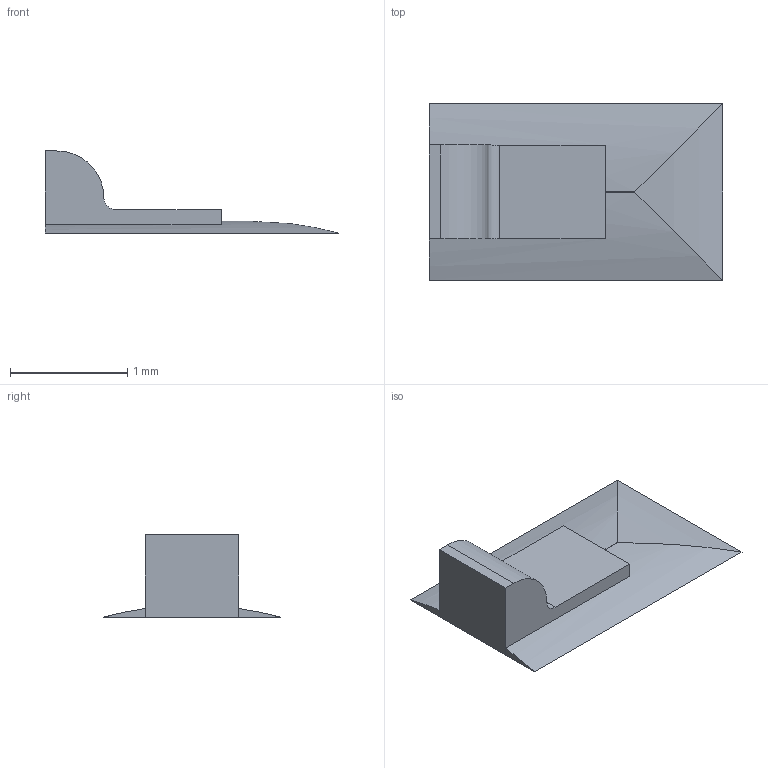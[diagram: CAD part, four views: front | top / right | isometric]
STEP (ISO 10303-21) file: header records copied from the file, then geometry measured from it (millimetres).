
FILE_DESCRIPTION(/* description */ ('STEP AP242 Edition 2','CAx-IF Rec.Pracs.---Representation and Presentation of Product Manufacturing Information (PMI)---4.0---2014-10-13','CAx-IF Rec.Pracs.---3D Tessellated Geometry---0.4---2014-09-14','2;1','CAx-IF Rec.Pracs.---User Defined Attributes---1.5---2016-08-15'),/* implementation_level */ '2;1');
FILE_NAME(/* name */ 'Drone Layout - Surface 260',/* time_stamp */ '2026-10-04T22:22:54Z',/* author */ (''),/* organization */ (''),/* preprocessor_version */ 'ST-DEVELOPER v20',/* originating_system */ 'ONSHAPE BY PTC INC, 1.221',/* authorisation */ ' ');
FILE_SCHEMA (('AP242_MANAGED_MODEL_BASED_3D_ENGINEERING_MIM_LF { 1 0 10303 442 3 1 4 }'));
Length unit declared in the file: metre
Products named in the file (1): vreg:1__pins (1) (1)
Bounding box: 2.5 x 1.5 x 0.7 mm (x, y, z)
Volume: 0.5 mm3; surface area: 9.3 mm2
Topology: 1 solids, 1 shells, 15 faces, 39 edges, 26 vertices
Faces by surface type: plane 10, cylinder 5
Entity records: 476 total; most frequent: CARTESIAN_POINT 87, ORIENTED_EDGE 78, DIRECTION 77, EDGE_CURVE 39, LINE 29, VECTOR 29, VERTEX_POINT 26, AXIS2_PLACEMENT_3D 24
